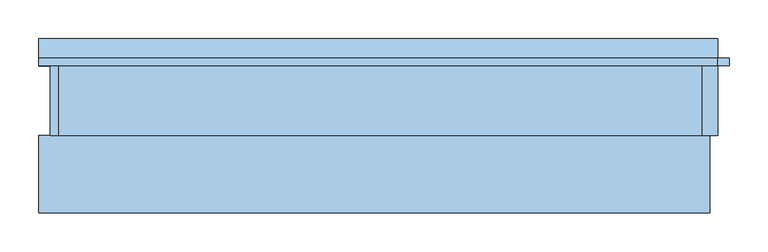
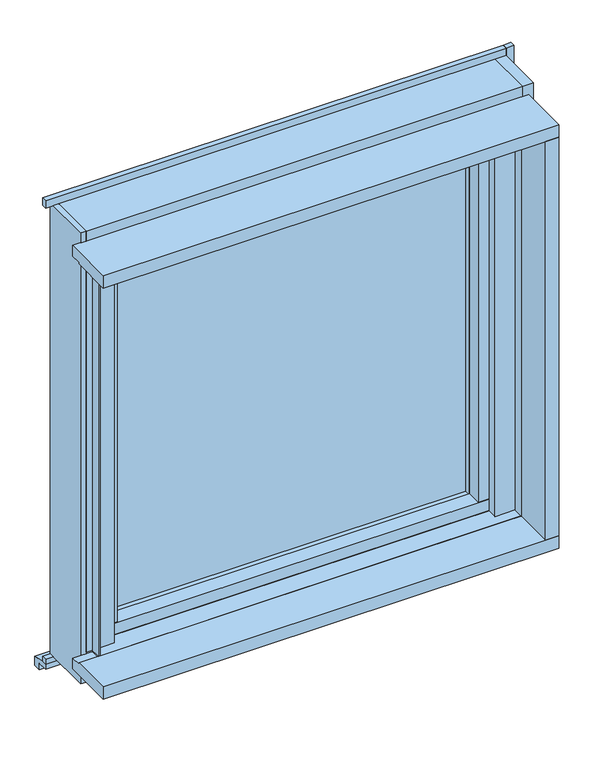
"""IFC4 building model written with IfcOpenShell, lengths in millimetres: window geometry, FNSⅡ100R_個別防火_ALC枠_単窓 : 隠蔽突出排煙."""

from ifc_helpers import new_model, si_unit, frame, origin, place, context, project, spatial, polyline, outline, extrude, faceted_brep, source, transform, mapped, element, save


def window_1eb9ea19(model_context):
    return source(origin(), model_context, "Body", "SolidModel", [
        extrude(outline(polyline([(-343.0, 60.0), (343.0, 60.0), (343.0, 54.0), (-343.0, 54.0), (-343.0, 60.0)])), frame((0.0, 0.0, 919.0), z_axis=(0.0, 0.0, 1.0), x_axis=(1.0, 0.0, 0.0)), (0.0, 0.0, 1.0), 735.0),
        extrude(outline(polyline([(-343.0, 78.0), (343.0, 78.0), (343.0, 72.0), (-343.0, 72.0), (-343.0, 78.0)])), frame((0.0, 0.0, 919.0), z_axis=(0.0, 0.0, 1.0), x_axis=(1.0, 0.0, 0.0)), (0.0, 0.0, 1.0), 735.0),
        faceted_brep([(-400.0, 85.5, 869.0), (-400.0, 90.0, 869.0), (-362.2, 90.0, 869.0), (-362.2, 18.0, 869.0), (-374.5, 18.0, 869.0), (-374.5, 85.5, 869.0), (-374.5, 85.5, 1700.0), (-400.0, 85.5, 1700.0), (-374.5, 18.0, 1684.0), (-374.5, 80.0, 1684.0), (-374.5, 80.0, 1700.0), (-362.2, 18.0, 1684.0), (-343.0, 41.0, 1654.0), (-362.2, 41.0, 1654.0), (-362.2, 41.0, 919.0), (-343.0, 41.0, 919.0), (-362.2, 80.0, 1700.0), (-362.2, 90.0, 1700.0), (-400.0, 90.0, 1700.0), (-362.2, 90.0, 1654.0), (-343.0, 90.0, 1654.0), (-343.0, 90.0, 919.0), (-362.2, 90.0, 919.0), (-362.2, 80.0, 1684.0)], [[[0, 1, 2, 3, 4, 5]], [[6, 7, 0, 5]], [[5, 4, 8, 9, 10, 6]], [[4, 3, 11, 8]], [[12, 13, 14, 15]], [[7, 6, 10, 16, 17, 18]], [[18, 17, 19, 20, 21, 22, 2, 1]], [[7, 18, 1, 0]], [[3, 2, 22, 14, 13, 19, 17, 16, 23, 11]], [[23, 9, 8, 11]], [[9, 23, 16, 10]], [[13, 12, 20, 19]], [[22, 21, 15, 14]], [[20, 12, 15, 21]]]),
        faceted_brep([(400.0, 85.5, 869.0), (376.8, 85.5, 869.0), (376.8, 18.0, 869.0), (363.0, 18.0, 869.0), (363.0, 90.0, 869.0), (400.0, 90.0, 869.0), (400.0, 90.0, 1700.0), (400.0, 85.5, 1700.0), (376.8, 18.0, 1684.0), (363.0, 18.0, 1684.0), (376.8, 85.5, 1700.0), (343.0, 41.0, 1654.0), (343.0, 90.0, 1654.0), (343.0, 90.0, 919.0), (343.0, 41.0, 919.0), (363.0, 41.0, 1654.0), (363.0, 41.0, 919.0), (363.0, 90.0, 1700.0), (363.0, 80.0, 1700.0), (376.8, 80.0, 1700.0), (363.0, 90.0, 919.0), (363.0, 90.0, 1654.0), (363.0, 80.0, 1684.0), (376.8, 80.0, 1684.0)], [[[0, 1, 2, 3, 4, 5]], [[6, 7, 0, 5]], [[3, 2, 8, 9]], [[7, 10, 1, 0]], [[11, 12, 13, 14]], [[15, 11, 14, 16]], [[7, 6, 17, 18, 19, 10]], [[17, 6, 5, 4, 20, 13, 12, 21]], [[4, 3, 9, 22, 18, 17, 21, 15, 16, 20]], [[2, 1, 10, 19, 23, 8]], [[23, 22, 9, 8]], [[22, 23, 19, 18]], [[21, 12, 11, 15]], [[16, 14, 13, 20]]]),
        extrude(outline(polyline([(-343.0, 12.5), (-362.2, 12.5), (-362.2, 41.0), (-343.0, 41.0), (-343.0, 12.5)])), frame((0.0, 0.0, 922.0), z_axis=(0.0, 0.0, 1.0), x_axis=(1.0, 0.0, 0.0)), (0.0, 0.0, 1.0), 729.0),
        extrude(outline(polyline([(343.0, 12.5), (343.0, 41.0), (363.0, 41.0), (363.0, 12.5), (343.0, 12.5)])), frame((0.0, 0.0, 922.0), z_axis=(0.0, 0.0, 1.0), x_axis=(1.0, 0.0, 0.0)), (0.0, 0.0, 1.0), 729.0),
        extrude(outline(polyline([(363.0, 41.0), (363.0, 10.0), (-362.2, 10.0), (-362.2, 41.0), (363.0, 41.0)])), frame((0.0, 0.0, 900.0), z_axis=(0.0, 0.0, 1.0), x_axis=(1.0, 0.0, 0.0)), (0.0, 0.0, 1.0), 22.0),
        extrude(outline(polyline([(90.0, 869.0), (18.0, 869.0), (18.0, 900.0), (41.0, 900.0), (41.0, 919.0), (90.0, 919.0), (90.0, 869.0)])), frame((-362.2, 0.0, 0.0), z_axis=(1.0, 0.0, 0.0), x_axis=(0.0, 1.0, 0.0)), (0.0, 0.0, 1.0), 725.2),
        extrude(outline(polyline([(90.0, 1700.0), (90.0, 1654.0), (41.0, 1654.0), (41.0, 1673.2), (18.0, 1673.2), (18.0, 1684.0), (80.0, 1684.0), (80.0, 1700.0), (90.0, 1700.0)])), frame((-362.2, 0.0, 0.0), z_axis=(1.0, 0.0, 0.0), x_axis=(0.0, 1.0, 0.0)), (0.0, 0.0, 1.0), 725.2),
        extrude(outline(polyline([(363.0, 41.0), (363.0, 10.0), (-362.2, 10.0), (-362.2, 41.0), (363.0, 41.0)])), frame((0.0, 0.0, 1651.0), z_axis=(0.0, 0.0, 1.0), x_axis=(1.0, 0.0, 0.0)), (0.0, 0.0, 1.0), 22.2),
        faceted_brep([(-425.0, 90.0, 1745.0), (-425.0, -10.0, 1745.0), (-415.0, -10.0, 1745.0), (-415.0, 90.0, 1745.0), (-425.0, 90.0, 840.0), (-415.0, 90.0, 840.0), (-415.0, -10.0, 840.0), (-425.0, -10.0, 840.0), (-415.0, 90.0, 850.0), (-415.0, 9.0, 850.0), (-415.0, 9.0, 1700.0), (-415.0, 90.0, 1700.0), (-400.0, 90.0, 1700.0), (-400.0, 90.0, 850.0), (-368.0, 9.0, 1700.0), (-368.0, 14.0, 1700.0), (-400.0, 14.0, 1700.0), (-400.0, 14.0, 850.0), (-368.0, 14.0, 850.0), (-368.0, 9.0, 850.0)], [[[0, 1, 2, 3]], [[4, 5, 6, 7]], [[1, 0, 4, 7]], [[2, 1, 7, 6]], [[3, 2, 6, 5, 8, 9, 10, 11]], [[0, 3, 11, 12, 13, 8, 5, 4]], [[12, 11, 10, 14, 15, 16]], [[13, 17, 18, 19, 9, 8]], [[14, 10, 9, 19]], [[12, 16, 17, 13]], [[15, 14, 19, 18]], [[16, 15, 18, 17]]]),
        faceted_brep([(415.0, -10.0, 1745.0), (435.0, -10.0, 1745.0), (435.0, 90.0, 1745.0), (415.0, 90.0, 1745.0), (415.0, -10.0, 840.0), (415.0, 90.0, 840.0), (435.0, 90.0, 840.0), (435.0, -10.0, 840.0), (415.0, 9.0, 1700.0), (368.0, 9.0, 1700.0), (368.0, 9.0, 850.0), (415.0, 9.0, 850.0), (400.0, 14.0, 1700.0), (400.0, 90.0, 1700.0), (400.0, 90.0, 850.0), (400.0, 14.0, 850.0), (368.0, 14.0, 1700.0), (415.0, 90.0, 1700.0), (415.0, 90.0, 850.0), (368.0, 14.0, 850.0)], [[[0, 1, 2, 3]], [[4, 5, 6, 7]], [[8, 9, 10, 11]], [[12, 13, 14, 15]], [[12, 16, 9, 8, 17, 13]], [[15, 14, 18, 11, 10, 19]], [[1, 0, 4, 7]], [[2, 1, 7, 6]], [[3, 2, 6, 5, 18, 14, 13, 17]], [[0, 3, 17, 8, 11, 18, 5, 4]], [[16, 12, 15, 19]], [[9, 16, 19, 10]]]),
        extrude(outline(polyline([(400.0, -30.0), (400.0, -10.0), (362.0, -10.0), (362.0, 9.0), (415.0, 9.0), (415.0, -10.0), (403.0, -10.0), (403.0, -30.0), (400.0, -30.0)])), frame((0.0, 0.0, 900.0), z_axis=(0.0, 0.0, 1.0), x_axis=(1.0, 0.0, 0.0)), (0.0, 0.0, 1.0), 803.0),
        extrude(outline(polyline([(-415.0, -10.0), (-415.0, 9.0), (-362.0, 9.0), (-362.0, -10.0), (-400.0, -10.0), (-400.0, -30.0), (-403.0, -30.0), (-403.0, -10.0), (-415.0, -10.0)])), frame((0.0, 0.0, 900.0), z_axis=(0.0, 0.0, 1.0), x_axis=(1.0, 0.0, 0.0)), (0.0, 0.0, 1.0), 803.0),
        extrude(outline(polyline([(-10.0, 890.0), (-10.0, 897.0), (-30.0, 897.0), (-30.0, 900.0), (9.0, 900.0), (9.0, 890.0), (-10.0, 890.0)])), frame((-403.0, 0.0, 0.0), z_axis=(1.0, 0.0, 0.0), x_axis=(0.0, 1.0, 0.0)), (0.0, 0.0, 1.0), 806.0),
        extrude(outline(polyline([(90.0, 840.0), (-10.0, 840.0), (-10.0, 890.0), (14.0, 890.0), (14.0, 865.0), (79.0, 865.0), (79.0, 850.0), (90.0, 850.0), (90.0, 840.0)])), frame((-415.0, 0.0, 0.0), z_axis=(1.0, 0.0, 0.0), x_axis=(0.0, 1.0, 0.0)), (0.0, 0.0, 1.0), 830.0),
        extrude(outline(polyline([(9.0, 1673.0), (-12.5, 1673.0), (-12.5, 1700.0), (-30.0, 1700.0), (-30.0, 1703.0), (-10.0, 1703.0), (-10.0, 1712.5), (9.0, 1712.5), (9.0, 1673.0)])), frame((-400.0, 0.0, 0.0), z_axis=(1.0, 0.0, 0.0), x_axis=(0.0, 1.0, 0.0)), (0.0, 0.0, 1.0), 800.0),
        extrude(outline(polyline([(90.0, 1700.0), (14.0, 1700.0), (14.0, 1679.0), (9.0, 1679.0), (9.0, 1712.5), (-10.0, 1712.5), (-10.0, 1745.0), (90.0, 1745.0), (90.0, 1700.0)])), frame((-415.0, 0.0, 0.0), z_axis=(1.0, 0.0, 0.0), x_axis=(0.0, 1.0, 0.0)), (0.0, 0.0, 1.0), 830.0),
        extrude(outline(polyline([(-110.0, 900.0), (-30.0, 900.0), (-30.0, 897.0), (-10.0, 897.0), (-10.0, 875.0), (-110.0, 875.0), (-110.0, 900.0)])), frame((-440.0, 0.0, 0.0), z_axis=(1.0, 0.0, 0.0), x_axis=(0.0, 1.0, 0.0)), (0.0, 0.0, 1.0), 865.0),
        extrude(outline(polyline([(-440.0, 80.0), (-440.0, 90.0), (435.0, 90.0), (435.0, 80.0), (-440.0, 80.0)])), frame((0.0, 0.0, 830.0), z_axis=(0.0, 0.0, 1.0), x_axis=(1.0, 0.0, 0.0)), (0.0, 0.0, 1.0), 10.0),
        extrude(outline(polyline([(100.0, 807.0), (100.0, 820.0), (80.0, 820.0), (80.0, 830.0), (90.0, 830.0), (115.0, 825.0), (115.0, 807.0), (100.0, 807.0)])), frame((-440.0, 0.0, 0.0), z_axis=(1.0, 0.0, 0.0), x_axis=(0.0, 1.0, 0.0)), (0.0, 0.0, 1.0), 875.0),
        extrude(outline(polyline([(425.0, -10.0), (425.0, -110.0), (400.0, -110.0), (400.0, -30.0), (403.0, -30.0), (403.0, -10.0), (425.0, -10.0)])), frame((0.0, 0.0, 900.0), z_axis=(0.0, 0.0, 1.0), x_axis=(1.0, 0.0, 0.0)), (0.0, 0.0, 1.0), 800.0),
        extrude(outline(polyline([(450.0, 90.0), (450.0, 80.0), (435.0, 80.0), (435.0, 90.0), (450.0, 90.0)])), frame((0.0, 0.0, 820.0), z_axis=(0.0, 0.0, 1.0), x_axis=(1.0, 0.0, 0.0)), (0.0, 0.0, 1.0), 940.0),
        extrude(outline(polyline([(-110.0, 1725.0), (-10.0, 1725.0), (-10.0, 1703.0), (-30.0, 1703.0), (-30.0, 1700.0), (-110.0, 1700.0), (-110.0, 1725.0)])), frame((-440.0, 0.0, 0.0), z_axis=(1.0, 0.0, 0.0), x_axis=(0.0, 1.0, 0.0)), (0.0, 0.0, 1.0), 865.0),
        extrude(outline(polyline([(-440.0, 80.0), (-440.0, 90.0), (435.0, 90.0), (435.0, 80.0), (-440.0, 80.0)])), frame((0.0, 0.0, 1745.0), z_axis=(0.0, 0.0, 1.0), x_axis=(1.0, 0.0, 0.0)), (0.0, 0.0, 1.0), 15.0),
    ])


if __name__ == "__main__":
    model = new_model("IFC4")
    model_context = context("Model", 3, world=origin())
    ifc_project = project(units=[si_unit("LENGTHUNIT", "METRE", prefix="MILLI")], contexts=[model_context])
    site = spatial("IfcSite", under=ifc_project)
    building = spatial("IfcBuilding", under=site)
    placement = place(None, origin())
    window_shape = window_1eb9ea19(model_context)
    element("IfcWindow", 1, ObjectType="FNSⅡ100R_個別防火_ALC枠_単窓 : 隠蔽突出排煙", at=placement, inside=building, context=model_context, shape_type="MappedRepresentation", body=[
        mapped(window_shape, transform((0.0, 0.0, 0.0), x_axis=(1.0, 0.0, 0.0), y_axis=(0.0, 1.0, 0.0), z_axis=(0.0, 0.0, 1.0))),
    ])
    save(model, "model.ifc")
